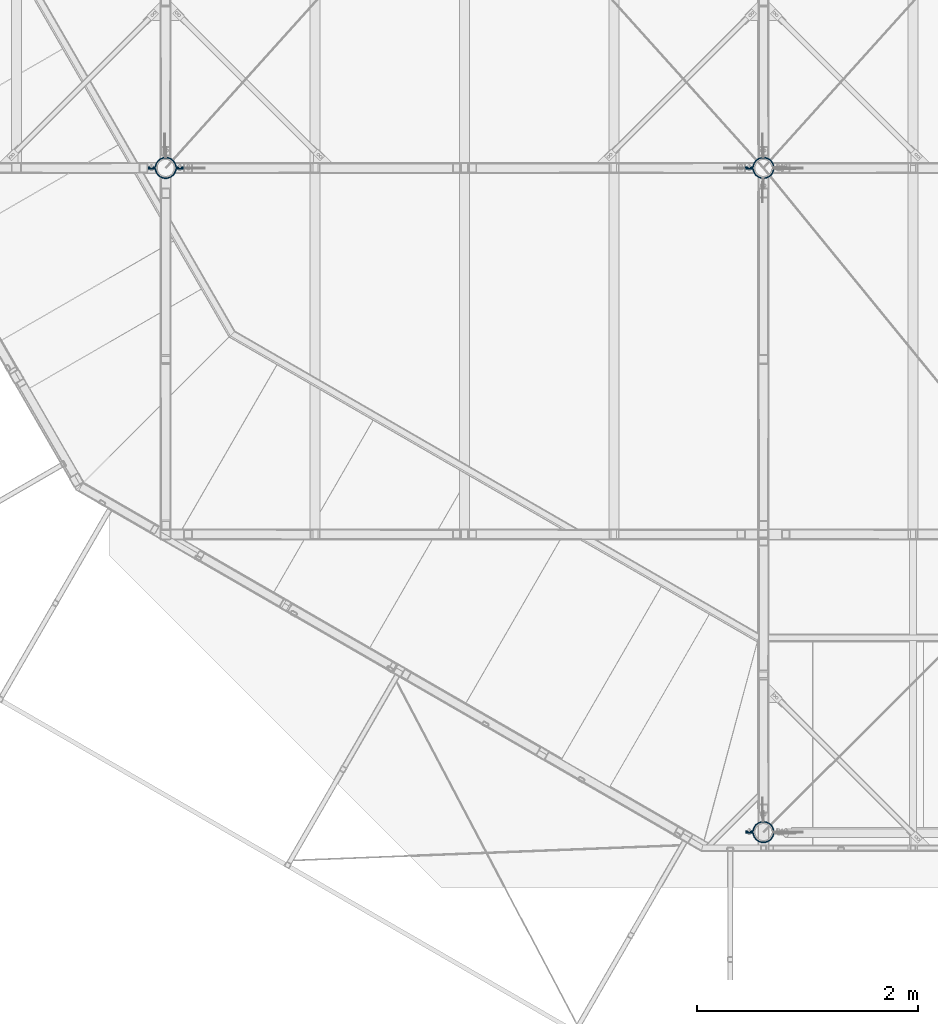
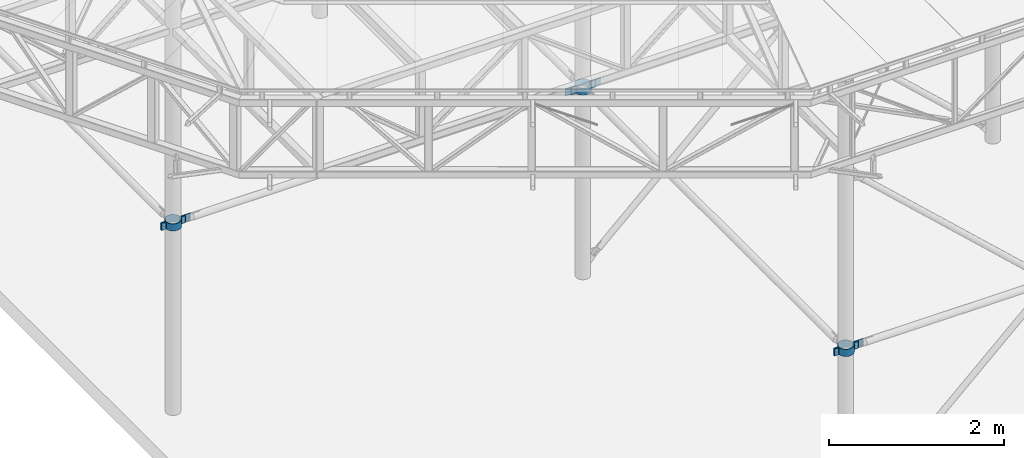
# One storey, part 126 of 132: 6 beams, 6 elements without a shape of their own.
"""IFC2X3 building model written with IfcOpenShell, lengths in millimetres."""

from ifc_helpers import new_model, si_unit, frame, origin_with_axes, place, context, subcontext, project, spatial, faceted_brep, material, type_object, element, aggregate, save


model = new_model("IFC2X3")

# Units and contexts
model_context = context("Model", 3, precision=1e-05, world=origin_with_axes())
body_context = subcontext(model_context, "Body", "Model", "MODEL_VIEW")
ifc_project = project(units=[si_unit("LENGTHUNIT", "METRE", prefix="MILLI"), si_unit("AREAUNIT", "SQUARE_METRE"), si_unit("VOLUMEUNIT", "CUBIC_METRE"), si_unit("MASSUNIT", "GRAM", prefix="KILO"), si_unit("TIMEUNIT", "SECOND"), si_unit("PLANEANGLEUNIT", "RADIAN"), si_unit("SOLIDANGLEUNIT", "STERADIAN"), si_unit("THERMODYNAMICTEMPERATUREUNIT", "DEGREE_CELSIUS"), si_unit("LUMINOUSINTENSITYUNIT", "LUMEN")], contexts=[model_context])

# Site, building, storey
site_placement = place(None, origin_with_axes())
site = spatial("IfcSite", under=ifc_project, at=site_placement, Name="Budowa", CompositionType="ELEMENT")
building_placement = place(site_placement, origin_with_axes())
building = spatial("IfcBuilding", under=site, at=building_placement, Name="Undefined", CompositionType="ELEMENT")
storey_placement = place(building_placement, origin_with_axes())
storey = spatial("IfcBuildingStorey", under=building, at=storey_placement, Name="Undefined", CompositionType="ELEMENT", Elevation=0.0)

# Assembly, beam
assembly_1_placement = place(storey_placement, origin_with_axes())
assembly_1 = element("IfcElementAssembly", 1, at=assembly_1_placement, inside=storey, Name="Steel Assembly", AssemblyPlace="NOTDEFINED", PredefinedType="RIGID_FRAME")
ifc_material = material(Name="STEEL/S235JR")
beam_type = type_object("IfcBeamType", Name="BL8*100", PredefinedType="NOTDEFINED")
beam_1_placement = place(assembly_1_placement, frame((4258.13669400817, 6006.00000020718, 10116.0003779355), z_axis=(0.0, 0.0, 1.0), x_axis=(-1.0, 0.0, 0.0)))
beam_1 = element("IfcBeam", 2, at=beam_1_placement, type_object=beam_type, material=ifc_material, Name="BEAM", ObjectType="BL8*100", context=body_context, shape_type="Brep", body=[
    faceted_brep([(0.0, 4.0, -50.0), (0.0, 4.0, 50.0), (129.968378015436, 4.0, 50.0), (129.968378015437, 4.00000000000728, -50.0), (0.0, -4.0, 50.0), (0.0, -4.0, -50.0), (129.968378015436, -4.0, -50.0), (129.968378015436, -4.0, 50.0), (137.356355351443, 2.19217357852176, 50.0), (137.356355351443, 2.19217357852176, -50.0), (133.662366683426, -4.90391321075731, -50.0), (133.662366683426, -4.90391321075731, 50.0), (136.521594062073, -7.41138806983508, -50.0), (136.521594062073, -7.41138806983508, 50.0), (143.074810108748, -2.8227761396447, 50.0), (143.074810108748, -2.8227761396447, -50.0), (137.89993680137, -10.955789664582, -50.0), (137.89993680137, -10.955789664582, 50.0), (145.831495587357, -9.91157932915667, 50.0), (145.831495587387, -9.91157932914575, -50.0), (146.782928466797, -17.1384239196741, 50.0), (146.782928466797, -17.1384239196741, -50.0), (138.988842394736, -19.2268423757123, -50.0), (138.988842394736, -19.2268423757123, 50.0), (155.714019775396, -38.7000007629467, 50.0), (155.714019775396, -38.7000007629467, -50.0), (148.726032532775, -42.7345153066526, -50.0), (148.726032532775, -42.7345153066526, 50.0), (169.921340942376, -57.2153472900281, 50.0), (169.921340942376, -57.2153472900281, -50.0), (164.215673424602, -62.9210138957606, -50.0), (164.215673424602, -62.9210138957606, 50.0), (188.436691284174, -71.4226760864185, 50.0), (188.436691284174, -71.4226760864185, -50.0), (184.402176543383, -78.4106633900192, -50.0), (184.402176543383, -78.4106633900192, 50.0), (209.998275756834, -80.3537673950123, 50.0), (209.998275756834, -80.3537673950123, -50.0), (207.909857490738, -88.1478534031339, -50.0), (207.909857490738, -88.1478534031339, 50.0), (233.136688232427, -83.4000015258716, 50.0), (233.136688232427, -83.4000015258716, -50.0), (233.136687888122, -91.4690333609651, -50.0), (233.136687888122, -91.4690333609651, 50.0), (256.275115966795, -80.3537673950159, 50.0), (256.275115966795, -80.3537673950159, -50.0), (258.363533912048, -88.1478535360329, -50.0), (258.363533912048, -88.1478535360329, 50.0), (277.836700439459, -71.4226760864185, 50.0), (277.836700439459, -71.4226760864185, -50.0), (281.87121518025, -78.4106633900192, -50.0), (281.87121518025, -78.4106633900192, 50.0), (296.352050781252, -57.2153472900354, 50.0), (296.352050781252, -57.2153472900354, -50.0), (302.057719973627, -62.9210126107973, -50.0), (302.057719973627, -62.9210126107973, 50.0), (310.559356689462, -38.7000007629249, 50.0), (310.559356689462, -38.7000007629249, -50.0), (317.5473417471, -42.7345172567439, -50.0), (317.5473417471, -42.7345172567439, 50.0), (319.490478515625, -17.138423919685, 50.0), (319.490478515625, -17.138423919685, -50.0), (327.284563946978, -19.2268472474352, -50.0), (327.284563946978, -19.2268472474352, 50.0), (320.4419114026, -9.91157923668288, 50.0), (320.441911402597, -9.91157923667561, -50.0), (328.37347018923, -10.9557895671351, -50.0), (328.37347018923, -10.9557895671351, 50.0), (323.198596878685, -2.82277604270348, 50.0), (323.198596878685, -2.82277604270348, -50.0), (329.75181292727, -7.41138797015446, -50.0), (329.75181292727, -7.41138797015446, 50.0), (332.611040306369, -4.90391310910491, -50.0), (332.611040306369, -4.90391310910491, 50.0), (328.917051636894, 2.19217367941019, 50.0), (328.917051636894, 2.19217367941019, -50.0), (336.305028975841, -3.99999989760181, -50.0), (336.305028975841, -3.99999989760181, 50.0), (336.30502897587, 4.00000010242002, 50.0), (336.305028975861, 4.0000001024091, -50.0), (391.273406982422, 4.0000001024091, 50.0), (391.273406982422, 4.0000001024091, -50.0), (391.273406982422, -3.9999998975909, 50.0), (391.273406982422, -3.9999998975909, -50.0)], [[[0, 1, 2, 3]], [[4, 5, 6, 7]], [[5, 4, 1, 0]], [[3, 2, 8, 9]], [[7, 6, 10, 11]], [[10, 12, 13, 11]], [[8, 14, 15, 9]], [[12, 16, 17, 13]], [[14, 18, 19, 15]], [[19, 18, 20, 21]], [[17, 16, 22, 23]], [[21, 20, 24, 25]], [[23, 22, 26, 27]], [[25, 24, 28, 29]], [[27, 26, 30, 31]], [[29, 28, 32, 33]], [[31, 30, 34, 35]], [[33, 32, 36, 37]], [[35, 34, 38, 39]], [[37, 36, 40, 41]], [[39, 38, 42, 43]], [[41, 40, 44, 45]], [[43, 42, 46, 47]], [[45, 44, 48, 49]], [[47, 46, 50, 51]], [[49, 48, 52, 53]], [[51, 50, 54, 55]], [[53, 52, 56, 57]], [[55, 54, 58, 59]], [[57, 56, 60, 61]], [[59, 58, 62, 63]], [[61, 60, 64, 65]], [[63, 62, 66, 67]], [[65, 64, 68, 69]], [[67, 66, 70, 71]], [[70, 72, 73, 71]], [[68, 74, 75, 69]], [[72, 76, 77, 73]], [[74, 78, 79, 75]], [[79, 78, 80, 81]], [[78, 74, 68, 64, 60, 56, 52, 48, 44, 40, 36, 32, 28, 24, 20, 18, 14, 8, 2, 1, 4, 7, 11, 13, 17, 23, 27, 31, 35, 39, 43, 47, 51, 55, 59, 63, 67, 71, 73, 77, 82, 80]], [[77, 76, 83, 82]], [[76, 72, 70, 66, 62, 58, 54, 50, 46, 42, 38, 34, 30, 26, 22, 16, 12, 10, 6, 5, 0, 3, 9, 15, 19, 21, 25, 29, 33, 37, 41, 45, 49, 53, 57, 61, 65, 69, 75, 79, 81, 83]], [[82, 83, 81, 80]]]),
])
aggregate(assembly_1, [beam_1])

assembly_2_placement = place(storey_placement, origin_with_axes())
assembly_2 = element("IfcElementAssembly", 3, at=assembly_2_placement, inside=storey, Name="Steel Assembly", AssemblyPlace="NOTDEFINED", PredefinedType="RIGID_FRAME")
beam_2_placement = place(assembly_2_placement, frame((4183.13669400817, 5993.99999999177, 10116.0003779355), z_axis=(0.0, 0.0, 1.0), x_axis=(-1.0, 0.0, 0.0)))
beam_2 = element("IfcBeam", 4, at=beam_2_placement, type_object=beam_type, material=ifc_material, Name="BEAM", ObjectType="BL8*100", context=body_context, shape_type="Brep", body=[
    faceted_brep([(0.0, 4.0, -50.0), (0.0, 4.0, 50.0), (54.9683780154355, 4.0, 50.0), (54.9683780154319, 4.00000000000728, -50.0), (0.0, -4.0, 50.0), (0.0, -4.0, -50.0), (54.9683780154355, -4.0, -50.0), (54.9683780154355, -4.0, 50.0), (58.6623666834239, 4.90391321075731, 50.0), (58.6623666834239, 4.90391321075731, -50.0), (62.3563553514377, -2.19217357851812, -50.0), (62.3563553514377, -2.19217357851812, 50.0), (68.0748101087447, 2.82277613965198, -50.0), (68.0748101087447, 2.82277613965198, 50.0), (61.5215940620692, 7.41138806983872, 50.0), (61.5215940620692, 7.41138806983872, -50.0), (70.8314955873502, 9.91157932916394, -50.0), (70.8314955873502, 9.91157932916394, 50.0), (62.8999368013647, 10.9557896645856, 50.0), (62.899936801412, 10.9557896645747, -50.0), (63.9888423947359, 19.2268423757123, 50.0), (63.9888423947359, 19.2268423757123, -50.0), (71.7829284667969, 17.1384239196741, -50.0), (71.7829284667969, 17.1384239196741, 50.0), (73.7260325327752, 42.7345153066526, 50.0), (73.7260325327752, 42.7345153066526, -50.0), (80.7140197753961, 38.7000007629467, -50.0), (80.7140197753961, 38.7000007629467, 50.0), (89.2156734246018, 62.9210138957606, 50.0), (89.2156734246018, 62.9210138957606, -50.0), (94.9213409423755, 57.2153472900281, -50.0), (94.9213409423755, 57.2153472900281, 50.0), (109.402176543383, 78.4106633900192, 50.0), (109.402176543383, 78.4106633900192, -50.0), (113.436691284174, 71.4226760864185, -50.0), (113.436691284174, 71.4226760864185, 50.0), (132.909857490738, 88.1478534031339, 50.0), (132.909857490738, 88.1478534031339, -50.0), (134.998275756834, 80.3537673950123, -50.0), (134.998275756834, 80.3537673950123, 50.0), (158.136687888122, 91.4690333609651, 50.0), (158.136687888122, 91.4690333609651, -50.0), (158.136688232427, 83.4000015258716, -50.0), (158.136688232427, 83.4000015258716, 50.0), (183.363533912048, 88.1478535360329, 50.0), (183.363533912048, 88.1478535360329, -50.0), (181.275115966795, 80.3537673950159, -50.0), (181.275115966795, 80.3537673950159, 50.0), (206.87121518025, 78.4106633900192, 50.0), (206.87121518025, 78.4106633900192, -50.0), (202.836700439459, 71.4226760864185, -50.0), (202.836700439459, 71.4226760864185, 50.0), (227.057719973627, 62.9210126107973, 50.0), (227.057719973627, 62.9210126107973, -50.0), (221.352050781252, 57.2153472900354, -50.0), (221.352050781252, 57.2153472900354, 50.0), (242.5473417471, 42.7345172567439, 50.0), (242.5473417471, 42.7345172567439, -50.0), (235.559356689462, 38.7000007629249, -50.0), (235.559356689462, 38.7000007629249, 50.0), (252.284563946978, 19.2268472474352, 50.0), (252.284563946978, 19.2268472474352, -50.0), (244.490478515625, 17.138423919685, -50.0), (244.490478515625, 17.138423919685, 50.0), (253.37347018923, 10.9557895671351, 50.0), (253.373470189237, 10.9557895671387, -50.0), (245.4419114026, 9.91157923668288, -50.0), (245.4419114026, 9.91157923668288, 50.0), (254.751812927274, 7.4113879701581, 50.0), (254.751812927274, 7.4113879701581, -50.0), (248.198596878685, 2.82277604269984, -50.0), (248.198596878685, 2.82277604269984, 50.0), (253.91705163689, -2.19217367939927, -50.0), (253.91705163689, -2.19217367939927, 50.0), (257.611040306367, 4.90391310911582, 50.0), (257.611040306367, 4.90391310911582, -50.0), (261.305028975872, -4.00000010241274, -50.0), (261.305028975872, -4.00000010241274, 50.0), (261.305028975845, 3.99999989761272, 50.0), (261.305028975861, 3.9999998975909, -50.0), (316.273406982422, 3.9999998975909, 50.0), (316.273406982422, 3.9999998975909, -50.0), (316.273406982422, -4.0000001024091, 50.0), (316.273406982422, -4.0000001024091, -50.0)], [[[0, 1, 2, 3]], [[4, 5, 6, 7]], [[5, 4, 1, 0]], [[3, 2, 8, 9]], [[7, 6, 10, 11]], [[10, 12, 13, 11]], [[8, 14, 15, 9]], [[12, 16, 17, 13]], [[14, 18, 19, 15]], [[19, 18, 20, 21]], [[17, 16, 22, 23]], [[21, 20, 24, 25]], [[23, 22, 26, 27]], [[25, 24, 28, 29]], [[27, 26, 30, 31]], [[29, 28, 32, 33]], [[31, 30, 34, 35]], [[33, 32, 36, 37]], [[35, 34, 38, 39]], [[37, 36, 40, 41]], [[39, 38, 42, 43]], [[41, 40, 44, 45]], [[43, 42, 46, 47]], [[45, 44, 48, 49]], [[47, 46, 50, 51]], [[49, 48, 52, 53]], [[51, 50, 54, 55]], [[53, 52, 56, 57]], [[55, 54, 58, 59]], [[57, 56, 60, 61]], [[59, 58, 62, 63]], [[61, 60, 64, 65]], [[63, 62, 66, 67]], [[65, 64, 68, 69]], [[67, 66, 70, 71]], [[70, 72, 73, 71]], [[68, 74, 75, 69]], [[72, 76, 77, 73]], [[74, 78, 79, 75]], [[79, 78, 80, 81]], [[78, 74, 68, 64, 60, 56, 52, 48, 44, 40, 36, 32, 28, 24, 20, 18, 14, 8, 2, 1, 4, 7, 11, 13, 17, 23, 27, 31, 35, 39, 43, 47, 51, 55, 59, 63, 67, 71, 73, 77, 82, 80]], [[77, 76, 83, 82]], [[76, 72, 70, 66, 62, 58, 54, 50, 46, 42, 38, 34, 30, 26, 22, 16, 12, 10, 6, 5, 0, 3, 9, 15, 19, 21, 25, 29, 33, 37, 41, 45, 49, 53, 57, 61, 65, 69, 75, 79, 81, 83]], [[82, 83, 81, 80]]]),
])
aggregate(assembly_2, [beam_2])

assembly_3_placement = place(storey_placement, origin_with_axes())
assembly_3 = element("IfcElementAssembly", 5, at=assembly_3_placement, inside=storey, Name="Steel Assembly", AssemblyPlace="NOTDEFINED", PredefinedType="RIGID_FRAME")
beam_3_placement = place(assembly_3_placement, frame((9658.1366940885, 6006.00000016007, 10116.0003779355), z_axis=(0.0, 0.0, 1.0), x_axis=(-1.0, 0.0, 0.0)))
beam_3 = element("IfcBeam", 6, at=beam_3_placement, type_object=beam_type, material=ifc_material, Name="BEAM", ObjectType="BL8*100", context=body_context, shape_type="Brep", body=[
    faceted_brep([(0.0, 4.0, -50.0), (0.0, 4.0, 50.0), (129.968378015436, 4.0, 50.0), (129.968378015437, 4.00000000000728, -50.0), (0.0, -4.0, 50.0), (0.0, -4.0, -50.0), (129.968378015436, -4.0, -50.0), (129.968378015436, -4.0, 50.0), (137.356355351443, 2.19217357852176, 50.0), (137.356355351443, 2.19217357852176, -50.0), (133.662366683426, -4.90391321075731, -50.0), (133.662366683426, -4.90391321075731, 50.0), (136.521594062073, -7.41138806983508, -50.0), (136.521594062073, -7.41138806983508, 50.0), (143.074810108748, -2.8227761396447, 50.0), (143.074810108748, -2.8227761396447, -50.0), (137.89993680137, -10.955789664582, -50.0), (137.89993680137, -10.955789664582, 50.0), (145.831495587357, -9.91157932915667, 50.0), (145.831495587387, -9.91157932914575, -50.0), (146.782928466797, -17.1384239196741, 50.0), (146.782928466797, -17.1384239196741, -50.0), (138.988842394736, -19.2268423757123, -50.0), (138.988842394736, -19.2268423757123, 50.0), (155.714019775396, -38.7000007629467, 50.0), (155.714019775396, -38.7000007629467, -50.0), (148.726032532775, -42.7345153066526, -50.0), (148.726032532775, -42.7345153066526, 50.0), (169.921340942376, -57.2153472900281, 50.0), (169.921340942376, -57.2153472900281, -50.0), (164.215673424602, -62.9210138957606, -50.0), (164.215673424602, -62.9210138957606, 50.0), (188.436691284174, -71.4226760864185, 50.0), (188.436691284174, -71.4226760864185, -50.0), (184.402176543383, -78.4106633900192, -50.0), (184.402176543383, -78.4106633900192, 50.0), (209.998275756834, -80.3537673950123, 50.0), (209.998275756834, -80.3537673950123, -50.0), (207.909857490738, -88.1478534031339, -50.0), (207.909857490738, -88.1478534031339, 50.0), (233.136688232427, -83.4000015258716, 50.0), (233.136688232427, -83.4000015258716, -50.0), (233.136687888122, -91.4690333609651, -50.0), (233.136687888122, -91.4690333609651, 50.0), (256.275115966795, -80.3537673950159, 50.0), (256.275115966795, -80.3537673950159, -50.0), (258.363533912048, -88.1478535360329, -50.0), (258.363533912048, -88.1478535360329, 50.0), (277.836700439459, -71.4226760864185, 50.0), (277.836700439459, -71.4226760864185, -50.0), (281.87121518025, -78.4106633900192, -50.0), (281.87121518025, -78.4106633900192, 50.0), (296.352050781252, -57.2153472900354, 50.0), (296.352050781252, -57.2153472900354, -50.0), (302.057719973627, -62.9210126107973, -50.0), (302.057719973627, -62.9210126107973, 50.0), (310.559356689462, -38.7000007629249, 50.0), (310.559356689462, -38.7000007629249, -50.0), (317.5473417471, -42.7345172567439, -50.0), (317.5473417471, -42.7345172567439, 50.0), (319.490478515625, -17.138423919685, 50.0), (319.490478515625, -17.138423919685, -50.0), (327.284563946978, -19.2268472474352, -50.0), (327.284563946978, -19.2268472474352, 50.0), (320.4419114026, -9.91157923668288, 50.0), (320.441911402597, -9.91157923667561, -50.0), (328.37347018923, -10.9557895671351, -50.0), (328.37347018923, -10.9557895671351, 50.0), (323.198596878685, -2.82277604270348, 50.0), (323.198596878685, -2.82277604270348, -50.0), (329.75181292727, -7.41138797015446, -50.0), (329.75181292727, -7.41138797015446, 50.0), (332.611040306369, -4.90391310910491, -50.0), (332.611040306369, -4.90391310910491, 50.0), (328.917051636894, 2.19217367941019, 50.0), (328.917051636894, 2.19217367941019, -50.0), (336.305028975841, -3.99999989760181, -50.0), (336.305028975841, -3.99999989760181, 50.0), (336.30502897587, 4.00000010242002, 50.0), (336.305028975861, 4.0000001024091, -50.0), (466.273406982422, 4.0000001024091, 50.0), (466.273406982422, 4.0000001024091, -50.0), (466.273406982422, -3.9999998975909, 50.0), (466.273406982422, -3.9999998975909, -50.0)], [[[0, 1, 2, 3]], [[4, 5, 6, 7]], [[5, 4, 1, 0]], [[3, 2, 8, 9]], [[7, 6, 10, 11]], [[10, 12, 13, 11]], [[8, 14, 15, 9]], [[12, 16, 17, 13]], [[14, 18, 19, 15]], [[19, 18, 20, 21]], [[17, 16, 22, 23]], [[21, 20, 24, 25]], [[23, 22, 26, 27]], [[25, 24, 28, 29]], [[27, 26, 30, 31]], [[29, 28, 32, 33]], [[31, 30, 34, 35]], [[33, 32, 36, 37]], [[35, 34, 38, 39]], [[37, 36, 40, 41]], [[39, 38, 42, 43]], [[41, 40, 44, 45]], [[43, 42, 46, 47]], [[45, 44, 48, 49]], [[47, 46, 50, 51]], [[49, 48, 52, 53]], [[51, 50, 54, 55]], [[53, 52, 56, 57]], [[55, 54, 58, 59]], [[57, 56, 60, 61]], [[59, 58, 62, 63]], [[61, 60, 64, 65]], [[63, 62, 66, 67]], [[65, 64, 68, 69]], [[67, 66, 70, 71]], [[70, 72, 73, 71]], [[68, 74, 75, 69]], [[72, 76, 77, 73]], [[74, 78, 79, 75]], [[79, 78, 80, 81]], [[78, 74, 68, 64, 60, 56, 52, 48, 44, 40, 36, 32, 28, 24, 20, 18, 14, 8, 2, 1, 4, 7, 11, 13, 17, 23, 27, 31, 35, 39, 43, 47, 51, 55, 59, 63, 67, 71, 73, 77, 82, 80]], [[77, 76, 83, 82]], [[76, 72, 70, 66, 62, 58, 54, 50, 46, 42, 38, 34, 30, 26, 22, 16, 12, 10, 6, 5, 0, 3, 9, 15, 19, 21, 25, 29, 33, 37, 41, 45, 49, 53, 57, 61, 65, 69, 75, 79, 81, 83]], [[82, 83, 81, 80]]]),
])
aggregate(assembly_3, [beam_3])

assembly_4_placement = place(storey_placement, origin_with_axes())
assembly_4 = element("IfcElementAssembly", 7, at=assembly_4_placement, inside=storey, Name="Steel Assembly", AssemblyPlace="NOTDEFINED", PredefinedType="RIGID_FRAME")
beam_4_placement = place(assembly_4_placement, frame((9583.1366940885, 5993.99999994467, 10116.0003779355), z_axis=(0.0, 0.0, 1.0), x_axis=(-1.0, 0.0, 0.0)))
beam_4 = element("IfcBeam", 8, at=beam_4_placement, type_object=beam_type, material=ifc_material, Name="BEAM", ObjectType="BL8*100", context=body_context, shape_type="Brep", body=[
    faceted_brep([(0.0, 4.0, -50.0), (0.0, 4.0, 50.0), (54.9683780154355, 4.0, 50.0), (54.9683780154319, 4.00000000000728, -50.0), (0.0, -4.0, 50.0), (0.0, -4.0, -50.0), (54.9683780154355, -4.0, -50.0), (54.9683780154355, -4.0, 50.0), (58.6623666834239, 4.90391321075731, 50.0), (58.6623666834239, 4.90391321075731, -50.0), (62.3563553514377, -2.19217357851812, -50.0), (62.3563553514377, -2.19217357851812, 50.0), (68.0748101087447, 2.82277613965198, -50.0), (68.0748101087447, 2.82277613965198, 50.0), (61.5215940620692, 7.41138806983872, 50.0), (61.5215940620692, 7.41138806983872, -50.0), (70.8314955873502, 9.91157932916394, -50.0), (70.8314955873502, 9.91157932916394, 50.0), (62.8999368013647, 10.9557896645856, 50.0), (62.899936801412, 10.9557896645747, -50.0), (63.9888423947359, 19.2268423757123, 50.0), (63.9888423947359, 19.2268423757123, -50.0), (71.7829284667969, 17.1384239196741, -50.0), (71.7829284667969, 17.1384239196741, 50.0), (73.7260325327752, 42.7345153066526, 50.0), (73.7260325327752, 42.7345153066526, -50.0), (80.7140197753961, 38.7000007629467, -50.0), (80.7140197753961, 38.7000007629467, 50.0), (89.2156734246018, 62.9210138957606, 50.0), (89.2156734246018, 62.9210138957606, -50.0), (94.9213409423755, 57.2153472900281, -50.0), (94.9213409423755, 57.2153472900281, 50.0), (109.402176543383, 78.4106633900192, 50.0), (109.402176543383, 78.4106633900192, -50.0), (113.436691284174, 71.4226760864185, -50.0), (113.436691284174, 71.4226760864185, 50.0), (132.909857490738, 88.1478534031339, 50.0), (132.909857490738, 88.1478534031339, -50.0), (134.998275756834, 80.3537673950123, -50.0), (134.998275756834, 80.3537673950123, 50.0), (158.136687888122, 91.4690333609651, 50.0), (158.136687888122, 91.4690333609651, -50.0), (158.136688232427, 83.4000015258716, -50.0), (158.136688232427, 83.4000015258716, 50.0), (183.363533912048, 88.1478535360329, 50.0), (183.363533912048, 88.1478535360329, -50.0), (181.275115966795, 80.3537673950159, -50.0), (181.275115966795, 80.3537673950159, 50.0), (206.87121518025, 78.4106633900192, 50.0), (206.87121518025, 78.4106633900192, -50.0), (202.836700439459, 71.4226760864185, -50.0), (202.836700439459, 71.4226760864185, 50.0), (227.057719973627, 62.9210126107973, 50.0), (227.057719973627, 62.9210126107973, -50.0), (221.352050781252, 57.2153472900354, -50.0), (221.352050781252, 57.2153472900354, 50.0), (242.5473417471, 42.7345172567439, 50.0), (242.5473417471, 42.7345172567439, -50.0), (235.559356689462, 38.7000007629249, -50.0), (235.559356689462, 38.7000007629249, 50.0), (252.284563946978, 19.2268472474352, 50.0), (252.284563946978, 19.2268472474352, -50.0), (244.490478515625, 17.138423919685, -50.0), (244.490478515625, 17.138423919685, 50.0), (253.37347018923, 10.9557895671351, 50.0), (253.373470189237, 10.9557895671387, -50.0), (245.4419114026, 9.91157923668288, -50.0), (245.4419114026, 9.91157923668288, 50.0), (254.751812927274, 7.4113879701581, 50.0), (254.751812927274, 7.4113879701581, -50.0), (248.198596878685, 2.82277604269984, -50.0), (248.198596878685, 2.82277604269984, 50.0), (253.91705163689, -2.19217367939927, -50.0), (253.91705163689, -2.19217367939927, 50.0), (257.611040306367, 4.90391310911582, 50.0), (257.611040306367, 4.90391310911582, -50.0), (261.305028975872, -4.00000010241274, -50.0), (261.305028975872, -4.00000010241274, 50.0), (261.305028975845, 3.99999989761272, 50.0), (261.305028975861, 3.9999998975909, -50.0), (316.273406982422, 3.9999998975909, 50.0), (316.273406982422, 3.9999998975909, -50.0), (316.273406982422, -4.0000001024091, 50.0), (316.273406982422, -4.0000001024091, -50.0)], [[[0, 1, 2, 3]], [[4, 5, 6, 7]], [[5, 4, 1, 0]], [[3, 2, 8, 9]], [[7, 6, 10, 11]], [[10, 12, 13, 11]], [[8, 14, 15, 9]], [[12, 16, 17, 13]], [[14, 18, 19, 15]], [[19, 18, 20, 21]], [[17, 16, 22, 23]], [[21, 20, 24, 25]], [[23, 22, 26, 27]], [[25, 24, 28, 29]], [[27, 26, 30, 31]], [[29, 28, 32, 33]], [[31, 30, 34, 35]], [[33, 32, 36, 37]], [[35, 34, 38, 39]], [[37, 36, 40, 41]], [[39, 38, 42, 43]], [[41, 40, 44, 45]], [[43, 42, 46, 47]], [[45, 44, 48, 49]], [[47, 46, 50, 51]], [[49, 48, 52, 53]], [[51, 50, 54, 55]], [[53, 52, 56, 57]], [[55, 54, 58, 59]], [[57, 56, 60, 61]], [[59, 58, 62, 63]], [[61, 60, 64, 65]], [[63, 62, 66, 67]], [[65, 64, 68, 69]], [[67, 66, 70, 71]], [[70, 72, 73, 71]], [[68, 74, 75, 69]], [[72, 76, 77, 73]], [[74, 78, 79, 75]], [[79, 78, 80, 81]], [[78, 74, 68, 64, 60, 56, 52, 48, 44, 40, 36, 32, 28, 24, 20, 18, 14, 8, 2, 1, 4, 7, 11, 13, 17, 23, 27, 31, 35, 39, 43, 47, 51, 55, 59, 63, 67, 71, 73, 77, 82, 80]], [[77, 76, 83, 82]], [[76, 72, 70, 66, 62, 58, 54, 50, 46, 42, 38, 34, 30, 26, 22, 16, 12, 10, 6, 5, 0, 3, 9, 15, 19, 21, 25, 29, 33, 37, 41, 45, 49, 53, 57, 61, 65, 69, 75, 79, 81, 83]], [[82, 83, 81, 80]]]),
])
aggregate(assembly_4, [beam_4])

assembly_5_placement = place(storey_placement, origin_with_axes())
assembly_5 = element("IfcElementAssembly", 9, at=assembly_5_placement, inside=storey, Name="Steel Assembly", AssemblyPlace="NOTDEFINED", PredefinedType="RIGID_FRAME")
beam_5_placement = place(assembly_5_placement, frame((9658.13669408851, 6.00000016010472, 10116.0003779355), z_axis=(0.0, 0.0, 1.0), x_axis=(-1.0, 0.0, 0.0)))
beam_5 = element("IfcBeam", 10, at=beam_5_placement, type_object=beam_type, material=ifc_material, Name="BEAM", ObjectType="BL8*100", context=body_context, shape_type="Brep", body=[
    faceted_brep([(0.0, 4.0, -50.0), (0.0, 4.0, 50.0), (129.968378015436, 4.0, 50.0), (129.968378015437, 4.00000000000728, -50.0), (0.0, -4.0, 50.0), (0.0, -4.0, -50.0), (129.968378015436, -4.0, -50.0), (129.968378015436, -4.0, 50.0), (137.356355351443, 2.19217357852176, 50.0), (137.356355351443, 2.19217357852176, -50.0), (133.662366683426, -4.90391321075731, -50.0), (133.662366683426, -4.90391321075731, 50.0), (136.521594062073, -7.41138806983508, -50.0), (136.521594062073, -7.41138806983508, 50.0), (143.074810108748, -2.8227761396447, 50.0), (143.074810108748, -2.8227761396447, -50.0), (137.89993680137, -10.955789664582, -50.0), (137.89993680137, -10.955789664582, 50.0), (145.831495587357, -9.91157932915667, 50.0), (145.831495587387, -9.91157932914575, -50.0), (146.782928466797, -17.1384239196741, 50.0), (146.782928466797, -17.1384239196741, -50.0), (138.988842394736, -19.2268423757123, -50.0), (138.988842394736, -19.2268423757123, 50.0), (155.714019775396, -38.7000007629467, 50.0), (155.714019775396, -38.7000007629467, -50.0), (148.726032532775, -42.7345153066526, -50.0), (148.726032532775, -42.7345153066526, 50.0), (169.921340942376, -57.2153472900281, 50.0), (169.921340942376, -57.2153472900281, -50.0), (164.215673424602, -62.9210138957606, -50.0), (164.215673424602, -62.9210138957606, 50.0), (188.436691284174, -71.4226760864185, 50.0), (188.436691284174, -71.4226760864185, -50.0), (184.402176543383, -78.4106633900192, -50.0), (184.402176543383, -78.4106633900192, 50.0), (209.998275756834, -80.3537673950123, 50.0), (209.998275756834, -80.3537673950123, -50.0), (207.909857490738, -88.1478534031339, -50.0), (207.909857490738, -88.1478534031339, 50.0), (233.136688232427, -83.4000015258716, 50.0), (233.136688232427, -83.4000015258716, -50.0), (233.136687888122, -91.4690333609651, -50.0), (233.136687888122, -91.4690333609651, 50.0), (256.275115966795, -80.3537673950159, 50.0), (256.275115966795, -80.3537673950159, -50.0), (258.363533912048, -88.1478535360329, -50.0), (258.363533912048, -88.1478535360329, 50.0), (277.836700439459, -71.4226760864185, 50.0), (277.836700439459, -71.4226760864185, -50.0), (281.87121518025, -78.4106633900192, -50.0), (281.87121518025, -78.4106633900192, 50.0), (296.352050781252, -57.2153472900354, 50.0), (296.352050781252, -57.2153472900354, -50.0), (302.057719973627, -62.9210126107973, -50.0), (302.057719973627, -62.9210126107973, 50.0), (310.559356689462, -38.7000007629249, 50.0), (310.559356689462, -38.7000007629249, -50.0), (317.5473417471, -42.7345172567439, -50.0), (317.5473417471, -42.7345172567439, 50.0), (319.490478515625, -17.138423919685, 50.0), (319.490478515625, -17.138423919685, -50.0), (327.284563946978, -19.2268472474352, -50.0), (327.284563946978, -19.2268472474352, 50.0), (320.4419114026, -9.91157923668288, 50.0), (320.441911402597, -9.91157923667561, -50.0), (328.37347018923, -10.9557895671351, -50.0), (328.37347018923, -10.9557895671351, 50.0), (323.198596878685, -2.82277604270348, 50.0), (323.198596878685, -2.82277604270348, -50.0), (329.75181292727, -7.41138797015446, -50.0), (329.75181292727, -7.41138797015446, 50.0), (332.611040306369, -4.90391310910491, -50.0), (332.611040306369, -4.90391310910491, 50.0), (328.917051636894, 2.19217367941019, 50.0), (328.917051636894, 2.19217367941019, -50.0), (336.305028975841, -3.99999989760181, -50.0), (336.305028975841, -3.99999989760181, 50.0), (336.30502897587, 4.00000010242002, 50.0), (336.305028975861, 4.0000001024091, -50.0), (391.273406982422, 4.0000001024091, 50.0), (391.273406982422, 4.0000001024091, -50.0), (391.273406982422, -3.9999998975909, 50.0), (391.273406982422, -3.9999998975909, -50.0)], [[[0, 1, 2, 3]], [[4, 5, 6, 7]], [[5, 4, 1, 0]], [[3, 2, 8, 9]], [[7, 6, 10, 11]], [[10, 12, 13, 11]], [[8, 14, 15, 9]], [[12, 16, 17, 13]], [[14, 18, 19, 15]], [[19, 18, 20, 21]], [[17, 16, 22, 23]], [[21, 20, 24, 25]], [[23, 22, 26, 27]], [[25, 24, 28, 29]], [[27, 26, 30, 31]], [[29, 28, 32, 33]], [[31, 30, 34, 35]], [[33, 32, 36, 37]], [[35, 34, 38, 39]], [[37, 36, 40, 41]], [[39, 38, 42, 43]], [[41, 40, 44, 45]], [[43, 42, 46, 47]], [[45, 44, 48, 49]], [[47, 46, 50, 51]], [[49, 48, 52, 53]], [[51, 50, 54, 55]], [[53, 52, 56, 57]], [[55, 54, 58, 59]], [[57, 56, 60, 61]], [[59, 58, 62, 63]], [[61, 60, 64, 65]], [[63, 62, 66, 67]], [[65, 64, 68, 69]], [[67, 66, 70, 71]], [[70, 72, 73, 71]], [[68, 74, 75, 69]], [[72, 76, 77, 73]], [[74, 78, 79, 75]], [[79, 78, 80, 81]], [[78, 74, 68, 64, 60, 56, 52, 48, 44, 40, 36, 32, 28, 24, 20, 18, 14, 8, 2, 1, 4, 7, 11, 13, 17, 23, 27, 31, 35, 39, 43, 47, 51, 55, 59, 63, 67, 71, 73, 77, 82, 80]], [[77, 76, 83, 82]], [[76, 72, 70, 66, 62, 58, 54, 50, 46, 42, 38, 34, 30, 26, 22, 16, 12, 10, 6, 5, 0, 3, 9, 15, 19, 21, 25, 29, 33, 37, 41, 45, 49, 53, 57, 61, 65, 69, 75, 79, 81, 83]], [[82, 83, 81, 80]]]),
])
aggregate(assembly_5, [beam_5])

assembly_6_placement = place(storey_placement, origin_with_axes())
assembly_6 = element("IfcElementAssembly", 11, at=assembly_6_placement, inside=storey, Name="Steel Assembly", AssemblyPlace="NOTDEFINED", PredefinedType="RIGID_FRAME")
beam_6_placement = place(assembly_6_placement, frame((9583.13669408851, -6.00000005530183, 10116.0003779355), z_axis=(0.0, 0.0, 1.0), x_axis=(-1.0, 0.0, 0.0)))
beam_6 = element("IfcBeam", 12, at=beam_6_placement, type_object=beam_type, material=ifc_material, Name="BEAM", ObjectType="BL8*100", context=body_context, shape_type="Brep", body=[
    faceted_brep([(0.0, 4.0, -50.0), (0.0, 4.0, 50.0), (54.9683780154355, 4.0, 50.0), (54.9683780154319, 4.00000000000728, -50.0), (0.0, -4.0, 50.0), (0.0, -4.0, -50.0), (54.9683780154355, -4.0, -50.0), (54.9683780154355, -4.0, 50.0), (58.6623666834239, 4.90391321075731, 50.0), (58.6623666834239, 4.90391321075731, -50.0), (62.3563553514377, -2.19217357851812, -50.0), (62.3563553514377, -2.19217357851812, 50.0), (68.0748101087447, 2.82277613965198, -50.0), (68.0748101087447, 2.82277613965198, 50.0), (61.5215940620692, 7.41138806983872, 50.0), (61.5215940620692, 7.41138806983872, -50.0), (70.8314955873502, 9.91157932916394, -50.0), (70.8314955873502, 9.91157932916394, 50.0), (62.8999368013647, 10.9557896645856, 50.0), (62.899936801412, 10.9557896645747, -50.0), (63.9888423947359, 19.2268423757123, 50.0), (63.9888423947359, 19.2268423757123, -50.0), (71.7829284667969, 17.1384239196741, -50.0), (71.7829284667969, 17.1384239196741, 50.0), (73.7260325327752, 42.7345153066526, 50.0), (73.7260325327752, 42.7345153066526, -50.0), (80.7140197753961, 38.7000007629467, -50.0), (80.7140197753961, 38.7000007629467, 50.0), (89.2156734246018, 62.9210138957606, 50.0), (89.2156734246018, 62.9210138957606, -50.0), (94.9213409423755, 57.2153472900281, -50.0), (94.9213409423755, 57.2153472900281, 50.0), (109.402176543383, 78.4106633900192, 50.0), (109.402176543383, 78.4106633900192, -50.0), (113.436691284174, 71.4226760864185, -50.0), (113.436691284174, 71.4226760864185, 50.0), (132.909857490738, 88.1478534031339, 50.0), (132.909857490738, 88.1478534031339, -50.0), (134.998275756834, 80.3537673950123, -50.0), (134.998275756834, 80.3537673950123, 50.0), (158.136687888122, 91.4690333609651, 50.0), (158.136687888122, 91.4690333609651, -50.0), (158.136688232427, 83.4000015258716, -50.0), (158.136688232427, 83.4000015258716, 50.0), (183.363533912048, 88.1478535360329, 50.0), (183.363533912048, 88.1478535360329, -50.0), (181.275115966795, 80.3537673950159, -50.0), (181.275115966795, 80.3537673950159, 50.0), (206.87121518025, 78.4106633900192, 50.0), (206.87121518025, 78.4106633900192, -50.0), (202.836700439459, 71.4226760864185, -50.0), (202.836700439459, 71.4226760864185, 50.0), (227.057719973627, 62.9210126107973, 50.0), (227.057719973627, 62.9210126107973, -50.0), (221.352050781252, 57.2153472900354, -50.0), (221.352050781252, 57.2153472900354, 50.0), (242.5473417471, 42.7345172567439, 50.0), (242.5473417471, 42.7345172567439, -50.0), (235.559356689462, 38.7000007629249, -50.0), (235.559356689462, 38.7000007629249, 50.0), (252.284563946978, 19.2268472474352, 50.0), (252.284563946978, 19.2268472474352, -50.0), (244.490478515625, 17.138423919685, -50.0), (244.490478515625, 17.138423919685, 50.0), (253.37347018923, 10.9557895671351, 50.0), (253.373470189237, 10.9557895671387, -50.0), (245.4419114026, 9.91157923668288, -50.0), (245.4419114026, 9.91157923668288, 50.0), (254.751812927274, 7.4113879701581, 50.0), (254.751812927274, 7.4113879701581, -50.0), (248.198596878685, 2.82277604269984, -50.0), (248.198596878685, 2.82277604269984, 50.0), (253.91705163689, -2.19217367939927, -50.0), (253.91705163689, -2.19217367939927, 50.0), (257.611040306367, 4.90391310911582, 50.0), (257.611040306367, 4.90391310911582, -50.0), (261.305028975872, -4.00000010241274, -50.0), (261.305028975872, -4.00000010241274, 50.0), (261.305028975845, 3.99999989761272, 50.0), (261.305028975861, 3.9999998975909, -50.0), (316.273406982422, 3.9999998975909, 50.0), (316.273406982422, 3.9999998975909, -50.0), (316.273406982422, -4.0000001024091, 50.0), (316.273406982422, -4.0000001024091, -50.0)], [[[0, 1, 2, 3]], [[4, 5, 6, 7]], [[5, 4, 1, 0]], [[3, 2, 8, 9]], [[7, 6, 10, 11]], [[10, 12, 13, 11]], [[8, 14, 15, 9]], [[12, 16, 17, 13]], [[14, 18, 19, 15]], [[19, 18, 20, 21]], [[17, 16, 22, 23]], [[21, 20, 24, 25]], [[23, 22, 26, 27]], [[25, 24, 28, 29]], [[27, 26, 30, 31]], [[29, 28, 32, 33]], [[31, 30, 34, 35]], [[33, 32, 36, 37]], [[35, 34, 38, 39]], [[37, 36, 40, 41]], [[39, 38, 42, 43]], [[41, 40, 44, 45]], [[43, 42, 46, 47]], [[45, 44, 48, 49]], [[47, 46, 50, 51]], [[49, 48, 52, 53]], [[51, 50, 54, 55]], [[53, 52, 56, 57]], [[55, 54, 58, 59]], [[57, 56, 60, 61]], [[59, 58, 62, 63]], [[61, 60, 64, 65]], [[63, 62, 66, 67]], [[65, 64, 68, 69]], [[67, 66, 70, 71]], [[70, 72, 73, 71]], [[68, 74, 75, 69]], [[72, 76, 77, 73]], [[74, 78, 79, 75]], [[79, 78, 80, 81]], [[78, 74, 68, 64, 60, 56, 52, 48, 44, 40, 36, 32, 28, 24, 20, 18, 14, 8, 2, 1, 4, 7, 11, 13, 17, 23, 27, 31, 35, 39, 43, 47, 51, 55, 59, 63, 67, 71, 73, 77, 82, 80]], [[77, 76, 83, 82]], [[76, 72, 70, 66, 62, 58, 54, 50, 46, 42, 38, 34, 30, 26, 22, 16, 12, 10, 6, 5, 0, 3, 9, 15, 19, 21, 25, 29, 33, 37, 41, 45, 49, 53, 57, 61, 65, 69, 75, 79, 81, 83]], [[82, 83, 81, 80]]]),
])
aggregate(assembly_6, [beam_6])

save(model, "model.ifc")
